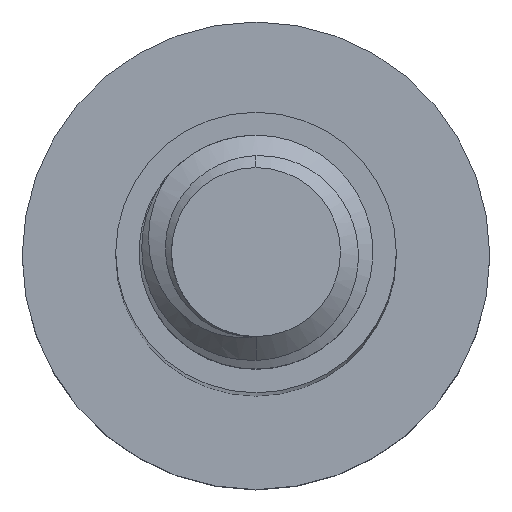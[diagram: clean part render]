
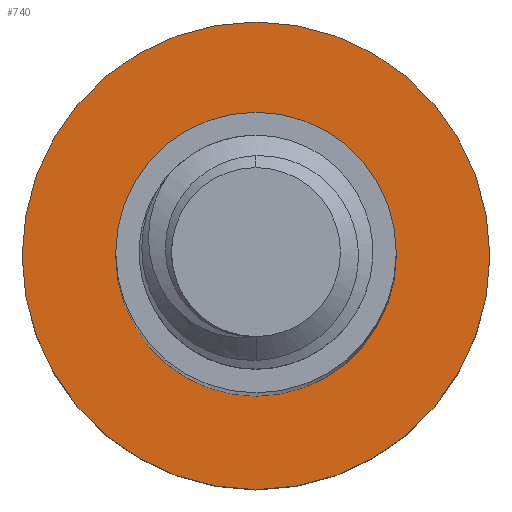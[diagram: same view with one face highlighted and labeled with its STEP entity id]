
A CAD part, top view. The second image highlights one B-rep face of the part: STEP entity #740.
In plain terms, the highlighted planar face has unit normal (0, 0, 1).
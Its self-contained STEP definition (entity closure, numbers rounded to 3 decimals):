
#6 = DIRECTION ( 'NONE',  ( 0., 0., -1. ) ) ;
#26 = AXIS2_PLACEMENT_3D ( 'NONE', #480, #1210, #1414 ) ;
#93 = DIRECTION ( 'NONE',  ( 0., 0., -1. ) ) ;
#147 = EDGE_CURVE ( 'NONE', #1253, #1767, #221, .T. ) ;
#148 = CIRCLE ( 'NONE', #1501, 5. ) ;
#221 = CIRCLE ( 'NONE', #2381, 3. ) ;
#237 = CARTESIAN_POINT ( 'NONE',  ( 0., 0., -40. ) ) ;
#289 = FACE_OUTER_BOUND ( 'NONE', #2366, .T. ) ;
#411 = CIRCLE ( 'NONE', #1305, 3. ) ;
#435 = CARTESIAN_POINT ( 'NONE',  ( -5., 0., -40. ) ) ;
#476 = CARTESIAN_POINT ( 'NONE',  ( 5., 0., -40. ) ) ;
#480 = CARTESIAN_POINT ( 'NONE',  ( 0., 0., -40. ) ) ;
#504 = EDGE_CURVE ( 'NONE', #1767, #1253, #411, .T. ) ;
#613 = ORIENTED_EDGE ( 'NONE', *, *, #641, .F. ) ;
#641 = EDGE_CURVE ( 'NONE', #965, #986, #1994, .T. ) ;
#740 = ADVANCED_FACE ( 'NONE', ( #2106, #289 ), #2147, .F. ) ;
#746 = ORIENTED_EDGE ( 'NONE', *, *, #504, .T. ) ;
#782 = ORIENTED_EDGE ( 'NONE', *, *, #147, .T. ) ;
#800 = CARTESIAN_POINT ( 'NONE',  ( 0., 0., -40. ) ) ;
#805 = CARTESIAN_POINT ( 'NONE',  ( -3., 0., -40. ) ) ;
#871 = AXIS2_PLACEMENT_3D ( 'NONE', #800, #93, #1181 ) ;
#965 = VERTEX_POINT ( 'NONE', #476 ) ;
#986 = VERTEX_POINT ( 'NONE', #435 ) ;
#1098 = EDGE_CURVE ( 'NONE', #986, #965, #148, .T. ) ;
#1126 = CARTESIAN_POINT ( 'NONE',  ( 3., 0., -40. ) ) ;
#1153 = DIRECTION ( 'NONE',  ( -1., 0., 0. ) ) ;
#1177 = CARTESIAN_POINT ( 'NONE',  ( 0., 0., -40. ) ) ;
#1181 = DIRECTION ( 'NONE',  ( -1., 0., 0. ) ) ;
#1210 = DIRECTION ( 'NONE',  ( 0., 0., -1. ) ) ;
#1253 = VERTEX_POINT ( 'NONE', #805 ) ;
#1305 = AXIS2_PLACEMENT_3D ( 'NONE', #237, #1376, #1153 ) ;
#1376 = DIRECTION ( 'NONE',  ( 0., 0., -1. ) ) ;
#1414 = DIRECTION ( 'NONE',  ( -1., 0., 0. ) ) ;
#1500 = CARTESIAN_POINT ( 'NONE',  ( 0., 0., -40. ) ) ;
#1501 = AXIS2_PLACEMENT_3D ( 'NONE', #1500, #6, #1676 ) ;
#1573 = DIRECTION ( 'NONE',  ( -1., 0., 0. ) ) ;
#1676 = DIRECTION ( 'NONE',  ( -1., 0., 0. ) ) ;
#1767 = VERTEX_POINT ( 'NONE', #1126 ) ;
#1794 = EDGE_LOOP ( 'NONE', ( #782, #746 ) ) ;
#1950 = DIRECTION ( 'NONE',  ( 0., 0., -1. ) ) ;
#1994 = CIRCLE ( 'NONE', #26, 5. ) ;
#2106 = FACE_BOUND ( 'NONE', #1794, .T. ) ;
#2147 = PLANE ( 'NONE',  #871 ) ;
#2253 = ORIENTED_EDGE ( 'NONE', *, *, #1098, .F. ) ;
#2366 = EDGE_LOOP ( 'NONE', ( #613, #2253 ) ) ;
#2381 = AXIS2_PLACEMENT_3D ( 'NONE', #1177, #1950, #1573 ) ;
